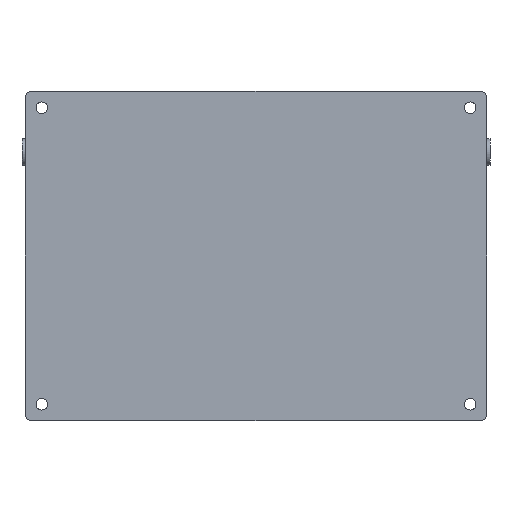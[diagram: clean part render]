
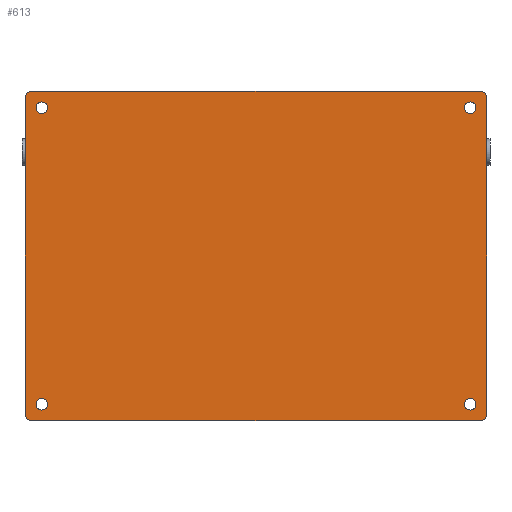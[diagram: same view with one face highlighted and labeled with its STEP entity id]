
A CAD part, front view. The second image highlights one B-rep face of the part: STEP entity #613.
In plain terms, the highlighted planar face has unit normal (0, -1, 0).
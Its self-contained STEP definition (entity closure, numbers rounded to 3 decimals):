
#148=PLANE('',#5635);
#613=ADVANCED_FACE('NONE',(#1794,#1795,#1796,#1797,#1798),#148,.F.);
#1176=LINE('',#8567,#1598);
#1177=LINE('',#8568,#1599);
#1178=LINE('',#8569,#1600);
#1179=LINE('',#8570,#1601);
#1598=VECTOR('',#6937,1.);
#1599=VECTOR('',#6938,1.);
#1600=VECTOR('',#6939,1.);
#1601=VECTOR('',#6940,1.);
#1794=FACE_BOUND('',#2008,.T.);
#1795=FACE_BOUND('',#2009,.T.);
#1796=FACE_BOUND('',#2010,.T.);
#1797=FACE_BOUND('',#2011,.T.);
#1798=FACE_BOUND('',#2012,.T.);
#2008=EDGE_LOOP('',(#2940,#2941));
#2009=EDGE_LOOP('',(#2942,#2943));
#2010=EDGE_LOOP('',(#2944,#2945));
#2011=EDGE_LOOP('',(#2946,#2947));
#2012=EDGE_LOOP('',(#2948,#2949,#2950,#2951,#2952,#2953,#2954,#2955));
#2940=ORIENTED_EDGE('',*,*,#4680,.T.);
#2941=ORIENTED_EDGE('',*,*,#4681,.T.);
#2942=ORIENTED_EDGE('',*,*,#4682,.T.);
#2943=ORIENTED_EDGE('',*,*,#4683,.T.);
#2944=ORIENTED_EDGE('',*,*,#4684,.T.);
#2945=ORIENTED_EDGE('',*,*,#4685,.T.);
#2946=ORIENTED_EDGE('',*,*,#4686,.T.);
#2947=ORIENTED_EDGE('',*,*,#4687,.T.);
#2948=ORIENTED_EDGE('',*,*,#4688,.F.);
#2949=ORIENTED_EDGE('',*,*,#4446,.T.);
#2950=ORIENTED_EDGE('',*,*,#4689,.F.);
#2951=ORIENTED_EDGE('',*,*,#4398,.T.);
#2952=ORIENTED_EDGE('',*,*,#4690,.F.);
#2953=ORIENTED_EDGE('',*,*,#4414,.T.);
#2954=ORIENTED_EDGE('',*,*,#4691,.F.);
#2955=ORIENTED_EDGE('',*,*,#4430,.T.);
#3860=VERTEX_POINT('',#8005);
#3861=VERTEX_POINT('',#8007);
#3876=VERTEX_POINT('',#8041);
#3877=VERTEX_POINT('',#8043);
#3892=VERTEX_POINT('',#8077);
#3893=VERTEX_POINT('',#8079);
#3908=VERTEX_POINT('',#8113);
#3909=VERTEX_POINT('',#8115);
#4035=VERTEX_POINT('',#8552);
#4036=VERTEX_POINT('',#8553);
#4037=VERTEX_POINT('',#8556);
#4038=VERTEX_POINT('',#8557);
#4039=VERTEX_POINT('',#8560);
#4040=VERTEX_POINT('',#8561);
#4041=VERTEX_POINT('',#8564);
#4042=VERTEX_POINT('',#8565);
#4398=EDGE_CURVE('NONE',#3861,#3860,#5015,.T.);
#4414=EDGE_CURVE('NONE',#3877,#3876,#5023,.T.);
#4430=EDGE_CURVE('NONE',#3893,#3892,#5031,.T.);
#4446=EDGE_CURVE('NONE',#3909,#3908,#5039,.T.);
#4680=EDGE_CURVE('NONE',#4035,#4036,#5146,.T.);
#4681=EDGE_CURVE('NONE',#4036,#4035,#5147,.T.);
#4682=EDGE_CURVE('NONE',#4037,#4038,#5148,.T.);
#4683=EDGE_CURVE('NONE',#4038,#4037,#5149,.T.);
#4684=EDGE_CURVE('NONE',#4039,#4040,#5150,.T.);
#4685=EDGE_CURVE('NONE',#4040,#4039,#5151,.T.);
#4686=EDGE_CURVE('NONE',#4041,#4042,#5152,.T.);
#4687=EDGE_CURVE('NONE',#4042,#4041,#5153,.T.);
#4688=EDGE_CURVE('NONE',#3909,#3892,#1176,.T.);
#4689=EDGE_CURVE('NONE',#3861,#3908,#1177,.T.);
#4690=EDGE_CURVE('NONE',#3877,#3860,#1178,.T.);
#4691=EDGE_CURVE('NONE',#3893,#3876,#1179,.T.);
#5015=CIRCLE('',#5407,2.);
#5023=CIRCLE('',#5419,2.);
#5031=CIRCLE('',#5431,2.);
#5039=CIRCLE('',#5443,2.);
#5146=CIRCLE('',#5627,1.75);
#5147=CIRCLE('',#5628,1.75);
#5148=CIRCLE('',#5629,1.75);
#5149=CIRCLE('',#5630,1.75);
#5150=CIRCLE('',#5631,1.75);
#5151=CIRCLE('',#5632,1.75);
#5152=CIRCLE('',#5633,1.75);
#5153=CIRCLE('',#5634,1.75);
#5407=AXIS2_PLACEMENT_3D('',#8006,#6330,#6331);
#5419=AXIS2_PLACEMENT_3D('',#8042,#6362,#6363);
#5431=AXIS2_PLACEMENT_3D('',#8078,#6394,#6395);
#5443=AXIS2_PLACEMENT_3D('',#8114,#6426,#6427);
#5627=AXIS2_PLACEMENT_3D('',#8551,#6921,#6922);
#5628=AXIS2_PLACEMENT_3D('',#8554,#6923,#6924);
#5629=AXIS2_PLACEMENT_3D('',#8555,#6925,#6926);
#5630=AXIS2_PLACEMENT_3D('',#8558,#6927,#6928);
#5631=AXIS2_PLACEMENT_3D('',#8559,#6929,#6930);
#5632=AXIS2_PLACEMENT_3D('',#8562,#6931,#6932);
#5633=AXIS2_PLACEMENT_3D('',#8563,#6933,#6934);
#5634=AXIS2_PLACEMENT_3D('',#8566,#6935,#6936);
#5635=AXIS2_PLACEMENT_3D('',#8571,#6941,#6942);
#6330=DIRECTION('',(0.,-1.,0.));
#6331=DIRECTION('',(0.,0.,1.));
#6362=DIRECTION('',(0.,-1.,0.));
#6363=DIRECTION('',(0.,0.,1.));
#6394=DIRECTION('',(0.,-1.,0.));
#6395=DIRECTION('',(0.,0.,1.));
#6426=DIRECTION('',(0.,-1.,0.));
#6427=DIRECTION('',(0.,0.,1.));
#6921=DIRECTION('',(0.,1.,0.));
#6922=DIRECTION('',(0.,0.,1.));
#6923=DIRECTION('',(0.,1.,0.));
#6924=DIRECTION('',(0.,0.,1.));
#6925=DIRECTION('',(0.,1.,0.));
#6926=DIRECTION('',(0.,0.,1.));
#6927=DIRECTION('',(0.,1.,0.));
#6928=DIRECTION('',(0.,0.,1.));
#6929=DIRECTION('',(0.,1.,0.));
#6930=DIRECTION('',(0.,0.,-1.));
#6931=DIRECTION('',(0.,1.,0.));
#6932=DIRECTION('',(0.,0.,-1.));
#6933=DIRECTION('',(0.,1.,0.));
#6934=DIRECTION('',(0.,0.,-1.));
#6935=DIRECTION('',(0.,1.,0.));
#6936=DIRECTION('',(0.,0.,-1.));
#6937=DIRECTION('',(1.,0.,0.));
#6938=DIRECTION('',(0.,0.,1.));
#6939=DIRECTION('',(-1.,0.,0.));
#6940=DIRECTION('',(0.,0.,-1.));
#6941=DIRECTION('',(0.,1.,0.));
#6942=DIRECTION('',(1.,0.,0.));
#8005=CARTESIAN_POINT('',(-68.,0.,-50.));
#8006=CARTESIAN_POINT('',(-68.,0.,-48.));
#8007=CARTESIAN_POINT('',(-70.,0.,-48.));
#8041=CARTESIAN_POINT('',(70.,0.,-48.));
#8042=CARTESIAN_POINT('',(68.,0.,-48.));
#8043=CARTESIAN_POINT('',(68.,0.,-50.));
#8077=CARTESIAN_POINT('',(68.,0.,50.));
#8078=CARTESIAN_POINT('',(68.,0.,48.));
#8079=CARTESIAN_POINT('',(70.,0.,48.));
#8113=CARTESIAN_POINT('',(-70.,0.,48.));
#8114=CARTESIAN_POINT('',(-68.,0.,48.));
#8115=CARTESIAN_POINT('',(-68.,0.,50.));
#8551=CARTESIAN_POINT('',(-65.,0.,-45.));
#8552=CARTESIAN_POINT('',(-65.,0.,-43.25));
#8553=CARTESIAN_POINT('',(-65.,0.,-46.75));
#8554=CARTESIAN_POINT('',(-65.,0.,-45.));
#8555=CARTESIAN_POINT('',(-65.,0.,45.));
#8556=CARTESIAN_POINT('',(-65.,0.,46.75));
#8557=CARTESIAN_POINT('',(-65.,0.,43.25));
#8558=CARTESIAN_POINT('',(-65.,0.,45.));
#8559=CARTESIAN_POINT('',(65.,0.,45.));
#8560=CARTESIAN_POINT('',(65.,0.,46.75));
#8561=CARTESIAN_POINT('',(65.,0.,43.25));
#8562=CARTESIAN_POINT('',(65.,0.,45.));
#8563=CARTESIAN_POINT('',(65.,0.,-45.));
#8564=CARTESIAN_POINT('',(65.,0.,-43.25));
#8565=CARTESIAN_POINT('',(65.,0.,-46.75));
#8566=CARTESIAN_POINT('',(65.,0.,-45.));
#8567=CARTESIAN_POINT('',(-70.,0.,50.));
#8568=CARTESIAN_POINT('',(-70.,0.,-50.));
#8569=CARTESIAN_POINT('',(-70.,0.,-50.));
#8570=CARTESIAN_POINT('',(70.,0.,-50.));
#8571=CARTESIAN_POINT('',(0.,0.,0.));
